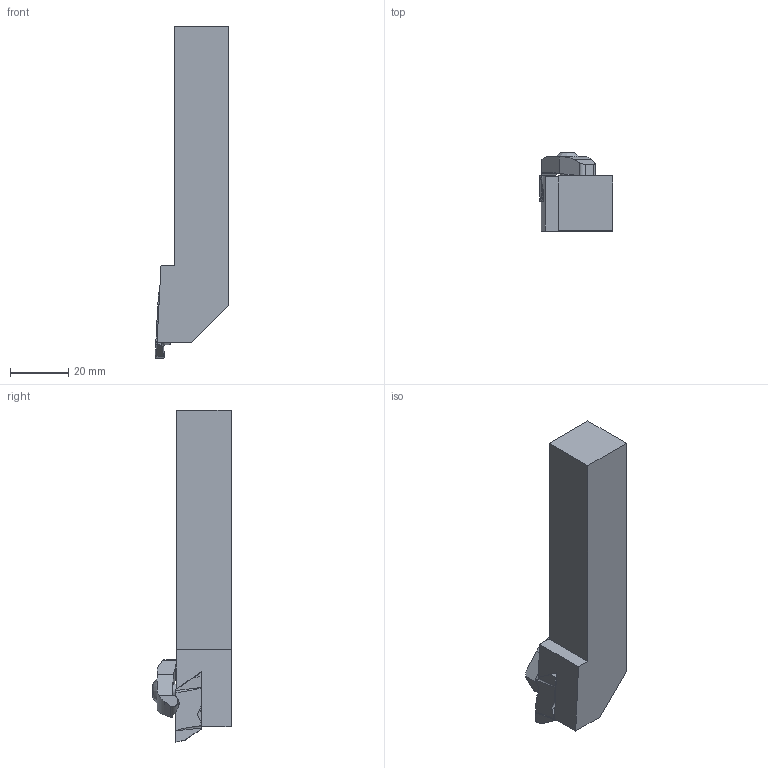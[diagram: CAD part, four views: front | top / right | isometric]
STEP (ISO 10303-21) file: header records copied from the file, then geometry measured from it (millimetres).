
FILE_DESCRIPTION(/* description */ (''),/* implementation_level */ '2;1');
FILE_NAME(/* name */ 'NSR123B_GTM.stp',/* time_stamp */ '2016-09-05T10:25:15+01:00',/* author */ (''),/* organization */ (''),/* preprocessor_version */ 'ST-DEVELOPER v15',/* originating_system */ 'SIEMENS PLM Software NX 9.0',/* authorisation */ '');
FILE_SCHEMA (('AUTOMOTIVE_DESIGN { 1 0 10303 214 3 1 1 1 }'));
Length unit declared in the file: millimetre
Products named in the file (1): NSR123B_GTM
Bounding box: 25.4 x 26.99 x 114.3 mm (x, y, z)
Volume: 41194.5 mm3; surface area: 10971.7 mm2
Topology: 4 solids, 4 shells, 129 faces, 363 edges, 251 vertices
Faces by surface type: plane 68, cylinder 55, bspline 5, cone 1
Full cylindrical faces by diameter (mm): 4.826 x1, 5.791 x1, 8.992 x1, 10.008 x1
Entity records: 4379 total; most frequent: CARTESIAN_POINT 899, DIRECTION 724, ORIENTED_EDGE 696, EDGE_CURVE 348, AXIS2_PLACEMENT_3D 252, VERTEX_POINT 235, LINE 220, VECTOR 220
